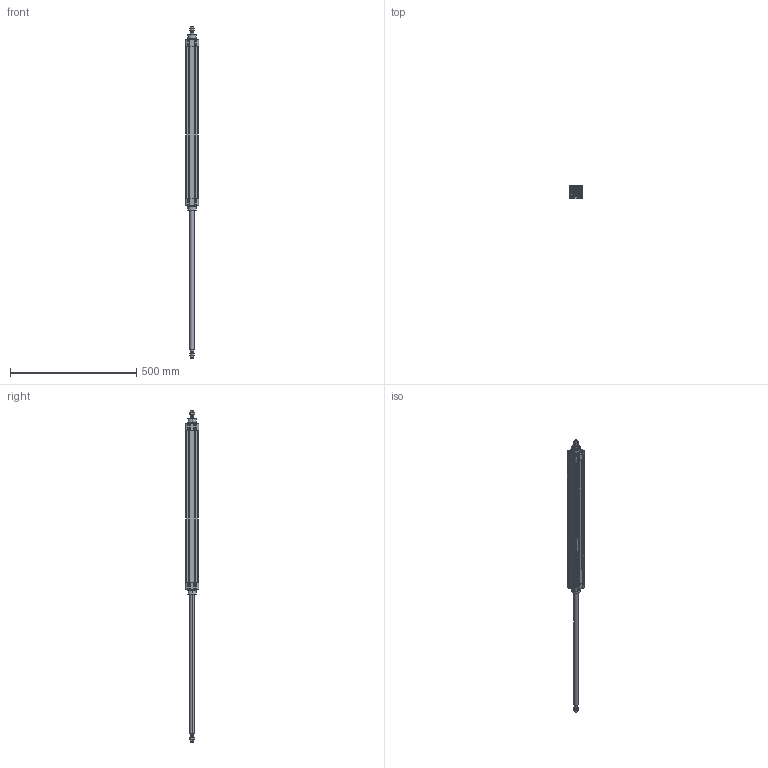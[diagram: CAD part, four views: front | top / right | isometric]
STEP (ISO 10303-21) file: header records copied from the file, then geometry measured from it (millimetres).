
FILE_DESCRIPTION (( 'STEP AP214' ), '1' );
FILE_NAME ('N11M40400550.STEP', '2021-09-28T08:52:48', ( '' ), ( '' ), 'SwSTEP 2.0', 'SolidWorks 2016', '' );
FILE_SCHEMA (( 'AUTOMOTIVE_DESIGN' ));
Length unit declared in the file: millimetre
Products named in the file (7): TA Ø40 ISO 15552 WEB; N11M40400550; 000.511.7_000.511.0550; Pistone Ø40 ISO 15552; 21.B01.0000_21.B01.0550; 21.B03.0000_21.B03.0550; 21.751.0
Assembly tree (8 placements, depth 2):
  N11M40400550
    TA Ø40 ISO 15552 WEB  x2
    21.751.0  x2
    21.B01.0000_21.B01.0550
    21.B03.0000_21.B03.0550
    Pistone Ø40 ISO 15552
    000.511.7_000.511.0550
Bounding box: 53.07 x 53.09 x 1313 mm (x, y, z)
Volume: 1018943.1 mm3; surface area: 426744.4 mm2
Topology: 20 solids, 20 shells, 1546 faces, 3857 edges, 2417 vertices
Faces by surface type: plane 725, cylinder 451, cone 274, torus 80, bspline 16
Entity records: 34170 total; most frequent: CARTESIAN_POINT 5064, DIRECTION 4745, ORIENTED_EDGE 4434, EDGE_CURVE 2217, AXIS2_PLACEMENT_3D 1734, VERTEX_POINT 1393, VECTOR 1277, LINE 1277
